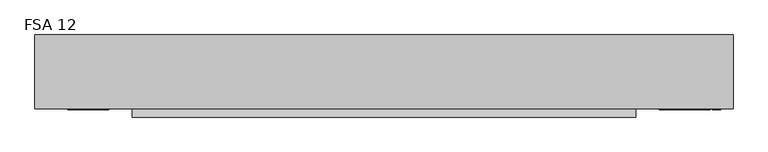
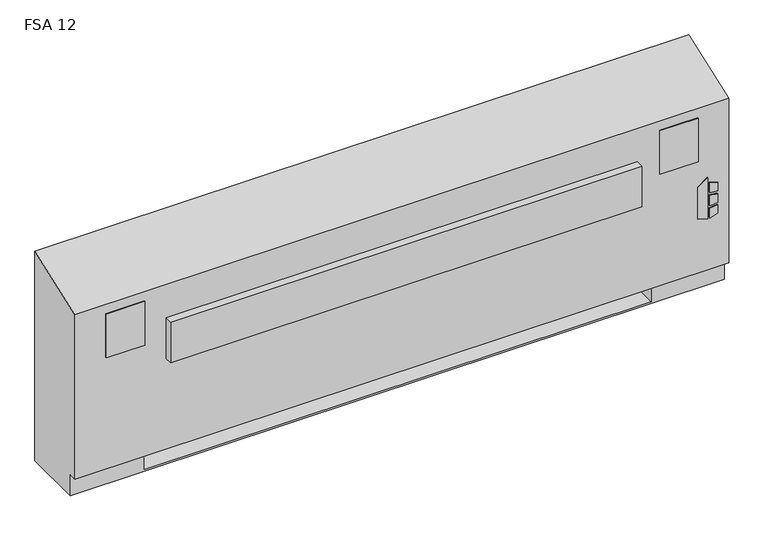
"""IFC4 building model written with IfcOpenShell, lengths in millimetres: proxy geometry, Vertical_Fan_Coil_Unit_-_FSA_-_IEC_-_4-Pipe_FS-FR_LH_2022 : FSA 12."""

from ifc_helpers import new_model, si_unit, point, frame, frame_2d, origin, place, context, project, spatial, polyline, circle_curve, trimmed, segment, composite_curve, outline, extrude, source, transform, mapped, element, save
from ifc_brep_helpers import plane_surface, revolved_surface, advanced_brep


def fsa_12_8d8f7d14(model_context):
    return source(origin(), model_context, "Body", "SolidModel", [
        extrude(outline(polyline([(263.9480703, 1128.7868862), (254.0, 1160.9602728), (396.1709244, 1160.9602728), (373.1489183, 1128.7868862), (263.9480703, 1128.7868862)])), frame((0.0, 12.7, 0.0), z_axis=(0.0, 1.0, 0.0), x_axis=(0.0, 0.0, 1.0)), (0.0, 0.0, 1.0), 3.175),
        extrude(outline(polyline([(342.9473557, 1167.7186058), (339.7449632, 1193.8), (368.9738042, 1193.8), (377.0382193, 1167.7186058), (342.9473557, 1167.7186058)])), frame((0.0, 12.7, 0.0), z_axis=(0.0, 1.0, 0.0), x_axis=(0.0, 0.0, 1.0)), (0.0, 0.0, 1.0), 3.175),
        extrude(outline(polyline([(291.0838288, 1193.8), (287.4183279, 1167.7186058), (254.0, 1167.7186058), (262.6342372, 1193.8), (291.0838288, 1193.8)])), frame((0.0, 12.7, 0.0), z_axis=(0.0, 1.0, 0.0), x_axis=(0.0, 0.0, 1.0)), (0.0, 0.0, 1.0), 3.175),
        extrude(outline(polyline([(330.3989903, 1193.8), (332.6808166, 1167.7186058), (296.7432681, 1167.7186058), (299.4845331, 1193.8), (330.3989903, 1193.8)])), frame((0.0, 12.7, 0.0), z_axis=(0.0, 1.0, 0.0), x_axis=(0.0, 0.0, 1.0)), (0.0, 0.0, 1.0), 3.175),
        extrude(outline(polyline([(1111.25, 223.266), (1111.25, 81.534), (990.6, 81.534), (990.6, 223.266), (1111.25, 223.266)])), frame((0.0, 0.0, 327.025), z_axis=(0.0, 0.0, 1.0), x_axis=(1.0, 0.0, 0.0)), (0.0, 0.0, 1.0), 260.35),
        extrude(outline(polyline([(-698.5, 12.7), (-825.5, 12.7), (-825.5, 15.875), (-698.5, 15.875), (-698.5, 12.7)])), frame((0.0, 0.0, 463.55), z_axis=(0.0, 0.0, 1.0), x_axis=(1.0, 0.0, 0.0)), (0.0, 0.0, 1.0), 152.4),
        extrude(outline(polyline([(1130.3, 12.7), (1003.3, 12.7), (1003.3, 15.875), (1130.3, 15.875), (1130.3, 12.7)])), frame((0.0, 0.0, 463.55), z_axis=(0.0, 0.0, 1.0), x_axis=(1.0, 0.0, 0.0)), (0.0, 0.0, 1.0), 152.4),
        extrude(outline(composite_curve([segment(trimmed(circle_curve(frame_2d((-749.3, 130.175)), 9.525), [point((-758.825, 130.175))], [point((-739.775, 130.175))], False, "CARTESIAN"), True, "CONTINUOUS"), segment(trimmed(circle_curve(frame_2d((-749.3, 130.175)), 9.525), [point((-739.775, 130.175))], [point((-758.825, 130.175))], False, "CARTESIAN"), True, "CONTINUOUS")], self_intersect=False)), frame((0.0, 0.0, 101.6), z_axis=(0.0, 0.0, 1.0), x_axis=(1.0, 0.0, 0.0)), (0.0, 0.0, 1.0), 25.4),
        extrude(outline(polyline([(-850.9, 63.5), (-850.9, 196.85), (-685.8, 196.85), (-685.8, 63.5), (-850.9, 63.5)])), frame((0.0, 0.0, 127.0), z_axis=(0.0, 0.0, 1.0), x_axis=(1.0, 0.0, 0.0)), (0.0, 0.0, 1.0), 50.8),
        extrude(outline(polyline([(930.275, -9.525), (-625.475, -9.525), (-625.475, 15.875), (930.275, 15.875), (930.275, -9.525)])), frame((0.0, 0.0, 389.3009245), z_axis=(0.0, 0.0, 1.0), x_axis=(1.0, 0.0, 0.0)), (0.0, 0.0, 1.0), 142.875),
        extrude(outline(composite_curve([segment(trimmed(circle_curve(frame_2d((109.0168, 457.2)), 7.9375), [point((109.0168, 465.1375))], [point((109.0168, 449.2625))], False, "CARTESIAN"), True, "CONTINUOUS"), segment(trimmed(circle_curve(frame_2d((109.0168, 457.2)), 7.9375), [point((109.0168, 449.2625))], [point((109.0168, 465.1375))], False, "CARTESIAN"), True, "CONTINUOUS")], self_intersect=False)), frame((-736.6, 0.0, 0.0), z_axis=(1.0, 0.0, 0.0), x_axis=(0.0, 1.0, 0.0)), (0.0, 0.0, 1.0), 50.8),
        extrude(outline(composite_curve([segment(trimmed(circle_curve(frame_2d((172.085, 460.0194)), 7.9375), [point((172.085, 467.9569))], [point((172.085, 452.0819))], False, "CARTESIAN"), True, "CONTINUOUS"), segment(trimmed(circle_curve(frame_2d((172.085, 460.0194)), 7.9375), [point((172.085, 452.0819))], [point((172.085, 467.9569))], False, "CARTESIAN"), True, "CONTINUOUS")], self_intersect=False)), frame((-736.6, 0.0, 0.0), z_axis=(1.0, 0.0, 0.0), x_axis=(0.0, 1.0, 0.0)), (0.0, 0.0, 1.0), 50.8),
        extrude(outline(composite_curve([segment(trimmed(circle_curve(frame_2d((53.975, 416.56)), 7.9502), [point((53.975, 424.5102))], [point((53.975, 408.6098))], False, "CARTESIAN"), True, "CONTINUOUS"), segment(trimmed(circle_curve(frame_2d((53.975, 416.56)), 7.9502), [point((53.975, 408.6098))], [point((53.975, 424.5102))], False, "CARTESIAN"), True, "CONTINUOUS")], self_intersect=False)), frame((-736.6, 0.0, 0.0), z_axis=(1.0, 0.0, 0.0), x_axis=(0.0, 1.0, 0.0)), (0.0, 0.0, 1.0), 50.8),
        extrude(outline(composite_curve([segment(trimmed(circle_curve(frame_2d((130.175, 554.99)), 7.9502), [point((130.175, 562.9402))], [point((130.175, 547.0398))], False, "CARTESIAN"), True, "CONTINUOUS"), segment(trimmed(circle_curve(frame_2d((130.175, 554.99)), 7.9502), [point((130.175, 547.0398))], [point((130.175, 562.9402))], False, "CARTESIAN"), True, "CONTINUOUS")], self_intersect=False)), frame((-736.6, 0.0, 0.0), z_axis=(1.0, 0.0, 0.0), x_axis=(0.0, 1.0, 0.0)), (0.0, 0.0, 1.0), 50.8),
        advanced_brep(
        [(-927.1, 244.475, 0.0), (1231.9, 244.475, 0.0), (1231.9, 41.275, 0.0), (-927.1, 41.275, 0.0), (-927.1, 244.475, 730.25), (1231.9, 244.475, 730.25), (990.6, 244.475, 73.025), (1219.2, 244.475, 73.025), (1219.2, 244.475, 654.05), (990.6, 244.475, 654.05), (990.6, 244.475, 414.8650565), (1019.175, 244.475, 414.8650565), (1019.175, 244.475, 385.2349435), (990.6, 244.475, 385.2349435), (990.6, 244.475, 287.3375), (1019.175, 244.475, 287.3375), (1019.175, 244.475, 258.7625), (990.6, 244.475, 258.7625), (990.6, 244.475, 141.2875), (1019.175, 244.475, 141.2875), (1019.175, 244.475, 112.7125), (990.6, 244.475, 112.7125), (-685.8, 244.475, 654.05), (-914.4, 244.475, 654.05), (-914.4, 244.475, 73.025), (-685.8, 244.475, 73.025), (-685.8, 244.475, 112.7125), (-714.375, 244.475, 112.7125), (-714.375, 244.475, 141.2875), (-685.8, 244.475, 141.2875), (-685.8, 244.475, 258.7625), (-714.375, 244.475, 258.7625), (-714.375, 244.475, 287.3375), (-685.8, 244.475, 287.3375), (-685.8, 244.475, 385.2349435), (-714.375, 244.475, 385.2349435), (-714.375, 244.475, 414.8650565), (-685.8, 244.475, 414.8650565), (1008.8626, 244.475, 127.0), (997.7374, 244.475, 127.0), (1008.8626, 244.475, 400.05), (997.7374, 244.475, 400.05), (1008.8626, 244.475, 273.05), (997.7374, 244.475, 273.05), (-692.9374, 244.475, 127.0), (-704.0626, 244.475, 127.0), (-692.9374, 244.475, 273.05), (-704.0626, 244.475, 273.05), (-692.9374, 244.475, 400.05), (-704.0626, 244.475, 400.05), (-927.1, 41.275, 73.025), (-927.1, 15.875, 73.025), (-927.1, 15.875, 647.7), (1231.9, 15.875, 73.025), (1231.9, 15.875, 647.7), (1231.9, 41.275, 73.025), (-685.8, 41.275, 73.025), (-685.8, 225.425, 73.025), (990.6, 225.425, 73.025), (990.6, 41.275, 73.025), (990.6, 41.275, 6.35), (-685.8, 41.275, 6.35), (990.6, 41.275, 654.05), (1219.2, 41.275, 654.05), (1219.2, 41.275, 73.025), (990.6, 41.275, 73.025), (-685.8, 41.275, 654.05), (-685.8, 41.275, 73.025), (-914.4, 41.275, 73.025), (-914.4, 41.275, 654.05), (990.6, 225.425, 73.025), (990.6, 238.125, 112.7125), (990.6, 238.125, 141.2875), (990.6, 238.125, 258.7625), (990.6, 238.125, 287.3375), (990.6, 238.125, 385.2349435), (990.6, 238.125, 414.8650565), (-685.8, 225.425, 73.025), (-685.8, 238.125, 414.8650565), (-685.8, 238.125, 385.2349435), (-685.8, 238.125, 287.3375), (-685.8, 238.125, 258.7625), (-685.8, 238.125, 141.2875), (-685.8, 238.125, 112.7125), (-685.8, 225.425, 6.35), (990.6, 225.425, 6.35), (1019.175, 238.125, 112.7125), (1019.175, 238.125, 141.2875), (997.7374, 238.125, 127.0), (1008.8626, 238.125, 127.0), (1019.175, 238.125, 258.7625), (1019.175, 238.125, 287.3375), (997.7374, 238.125, 273.05), (1008.8626, 238.125, 273.05), (1019.175, 238.125, 385.2349435), (1019.175, 238.125, 414.8650565), (997.7374, 238.125, 400.05), (1008.8626, 238.125, 400.05), (-714.375, 238.125, 141.2875), (-714.375, 238.125, 112.7125), (-704.0626, 238.125, 127.0), (-692.9374, 238.125, 127.0), (-714.375, 238.125, 287.3375), (-714.375, 238.125, 258.7625), (-704.0626, 238.125, 273.05), (-692.9374, 238.125, 273.05), (-714.375, 238.125, 414.8650565), (-714.375, 238.125, 385.2349435), (-704.0626, 238.125, 400.05), (-692.9374, 238.125, 400.05)],
        [
            (0, 1),
            (1, 2),
            (2, 3),
            (3, 0),
            (0, 4),
            (4, 5),
            (5, 1),
            (6, 7),
            (7, 8),
            (8, 9),
            (9, 10),
            (10, 11),
            (11, 12),
            (12, 13),
            (13, 14),
            (14, 15),
            (15, 16),
            (16, 17),
            (17, 18),
            (18, 19),
            (19, 20),
            (20, 21),
            (21, 6),
            (22, 23),
            (23, 24),
            (24, 25),
            (25, 26),
            (26, 27),
            (27, 28),
            (28, 29),
            (29, 30),
            (30, 31),
            (31, 32),
            (32, 33),
            (33, 34),
            (34, 35),
            (35, 36),
            (36, 37),
            (37, 22),
            (38, 39, circle_curve(frame((1003.3, 244.475, 127.0), z_axis=(0.0, -1.0, 0.0), x_axis=(-1.0, 0.0, 0.0)), 5.5626)),
            (39, 38, circle_curve(frame((1003.3, 244.475, 127.0), z_axis=(0.0, -1.0, 0.0), x_axis=(-1.0, 0.0, 0.0)), 5.5626)),
            (40, 41, circle_curve(frame((1003.3, 244.475, 400.05), z_axis=(0.0, -1.0, 0.0), x_axis=(-1.0, 0.0, 0.0)), 5.5626)),
            (41, 40, circle_curve(frame((1003.3, 244.475, 400.05), z_axis=(0.0, -1.0, 0.0), x_axis=(-1.0, 0.0, 0.0)), 5.5626)),
            (42, 43, circle_curve(frame((1003.3, 244.475, 273.05), z_axis=(0.0, -1.0, 0.0), x_axis=(-1.0, 0.0, 0.0)), 5.5626)),
            (43, 42, circle_curve(frame((1003.3, 244.475, 273.05), z_axis=(0.0, -1.0, 0.0), x_axis=(-1.0, 0.0, 0.0)), 5.5626)),
            (44, 45, circle_curve(frame((-698.5, 244.475, 127.0), z_axis=(0.0, -1.0, 0.0), x_axis=(-1.0, 0.0, 0.0)), 5.5626)),
            (45, 44, circle_curve(frame((-698.5, 244.475, 127.0), z_axis=(0.0, -1.0, 0.0), x_axis=(-1.0, 0.0, 0.0)), 5.5626)),
            (46, 47, circle_curve(frame((-698.5, 244.475, 273.05), z_axis=(0.0, -1.0, 0.0), x_axis=(-1.0, 0.0, 0.0)), 5.5626)),
            (47, 46, circle_curve(frame((-698.5, 244.475, 273.05), z_axis=(0.0, -1.0, 0.0), x_axis=(-1.0, 0.0, 0.0)), 5.5626)),
            (48, 49, circle_curve(frame((-698.5, 244.475, 400.05), z_axis=(0.0, -1.0, 0.0), x_axis=(-1.0, 0.0, 0.0)), 5.5626)),
            (49, 48, circle_curve(frame((-698.5, 244.475, 400.05), z_axis=(0.0, -1.0, 0.0), x_axis=(-1.0, 0.0, 0.0)), 5.5626)),
            (3, 50),
            (50, 51),
            (51, 52),
            (52, 4),
            (51, 53),
            (53, 54),
            (54, 52),
            (5, 54),
            (53, 55),
            (55, 2),
            (50, 56),
            (56, 57),
            (57, 58),
            (58, 59),
            (59, 55),
            (59, 60),
            (60, 61),
            (61, 56),
            (62, 63),
            (63, 64),
            (64, 65),
            (65, 62),
            (66, 67),
            (67, 68),
            (68, 69),
            (69, 66),
            (65, 70),
            (70, 6),
            (21, 71),
            (71, 72),
            (72, 18),
            (17, 73),
            (73, 74),
            (74, 14),
            (13, 75),
            (75, 76),
            (76, 10),
            (9, 62),
            (64, 7),
            (63, 8),
            (69, 23),
            (22, 66),
            (68, 24),
            (67, 77),
            (77, 25),
            (37, 78),
            (78, 79),
            (79, 34),
            (33, 80),
            (80, 81),
            (81, 30),
            (29, 82),
            (82, 83),
            (83, 26),
            (57, 84),
            (84, 85),
            (85, 58),
            (85, 60),
            (84, 61),
            (71, 86),
            (86, 87),
            (87, 72),
            (88, 89, circle_curve(frame((1003.3, 238.125, 127.0), z_axis=(0.0, 1.0, 0.0), x_axis=(-1.0, 0.0, 0.0)), 5.5626)),
            (89, 88, circle_curve(frame((1003.3, 238.125, 127.0), z_axis=(0.0, 1.0, 0.0), x_axis=(-1.0, 0.0, 0.0)), 5.5626)),
            (73, 90),
            (90, 91),
            (91, 74),
            (92, 93, circle_curve(frame((1003.3, 238.125, 273.05), z_axis=(0.0, 1.0, 0.0), x_axis=(-1.0, 0.0, 0.0)), 5.5626)),
            (93, 92, circle_curve(frame((1003.3, 238.125, 273.05), z_axis=(0.0, 1.0, 0.0), x_axis=(-1.0, 0.0, 0.0)), 5.5626)),
            (75, 94),
            (94, 95),
            (95, 76),
            (96, 97, circle_curve(frame((1003.3, 238.125, 400.05), z_axis=(0.0, 1.0, 0.0), x_axis=(-1.0, 0.0, 0.0)), 5.5626)),
            (97, 96, circle_curve(frame((1003.3, 238.125, 400.05), z_axis=(0.0, 1.0, 0.0), x_axis=(-1.0, 0.0, 0.0)), 5.5626)),
            (98, 99),
            (99, 83),
            (82, 98),
            (100, 101, circle_curve(frame((-698.5, 238.125, 127.0), z_axis=(0.0, 1.0, 0.0), x_axis=(-1.0, 0.0, 0.0)), 5.5626)),
            (101, 100, circle_curve(frame((-698.5, 238.125, 127.0), z_axis=(0.0, 1.0, 0.0), x_axis=(-1.0, 0.0, 0.0)), 5.5626)),
            (102, 103),
            (103, 81),
            (80, 102),
            (104, 105, circle_curve(frame((-698.5, 238.125, 273.05), z_axis=(0.0, 1.0, 0.0), x_axis=(-1.0, 0.0, 0.0)), 5.5626)),
            (105, 104, circle_curve(frame((-698.5, 238.125, 273.05), z_axis=(0.0, 1.0, 0.0), x_axis=(-1.0, 0.0, 0.0)), 5.5626)),
            (106, 107),
            (107, 79),
            (78, 106),
            (108, 109, circle_curve(frame((-698.5, 238.125, 400.05), z_axis=(0.0, 1.0, 0.0), x_axis=(-1.0, 0.0, 0.0)), 5.5626)),
            (109, 108, circle_curve(frame((-698.5, 238.125, 400.05), z_axis=(0.0, 1.0, 0.0), x_axis=(-1.0, 0.0, 0.0)), 5.5626)),
            (87, 19),
            (86, 20),
            (91, 15),
            (90, 16),
            (95, 11),
            (94, 12),
            (28, 98),
            (99, 27),
            (32, 102),
            (103, 31),
            (36, 106),
            (107, 35),
            (88, 39),
            (38, 89),
            (96, 41),
            (40, 97),
            (92, 43),
            (42, 93),
            (100, 45),
            (44, 101),
            (104, 47),
            (46, 105),
            (108, 49),
            (48, 109),
        ],
        [
            plane_surface(frame((-927.1, 244.475, 0.0), z_axis=(0.0, 0.0, -1.0), x_axis=(1.0, 0.0, 0.0))),
            plane_surface(frame((1231.9, 244.475, 730.25), z_axis=(0.0, 1.0, 0.0), x_axis=(0.0, 0.0, -1.0))),
            plane_surface(frame((-927.1, 244.475, 730.25), z_axis=(-1.0, 0.0, 0.0), x_axis=(0.0, 0.0, -1.0))),
            plane_surface(frame((-927.1, 15.875, 730.25), z_axis=(0.0, -1.0, 0.0), x_axis=(0.0, 0.0, -1.0))),
            plane_surface(frame((1231.9, 15.875, 730.25), z_axis=(1.0, 0.0, 0.0), x_axis=(0.0, 0.0, -1.0))),
            plane_surface(frame((-927.1, 15.875, 73.025), z_axis=(0.0, 0.0, -1.0), x_axis=(1.0, 0.0, 0.0))),
            plane_surface(frame((-927.1, 41.275, 73.025), z_axis=(0.0, -1.0, 0.0), x_axis=(1.0, 0.0, 0.0))),
            plane_surface(frame((990.6, 41.275, 654.05), z_axis=(0.0, 1.0, 0.0), x_axis=(0.0, 0.0, -1.0))),
            plane_surface(frame((990.6, 41.275, 654.05), z_axis=(1.0, 0.0, 0.0), x_axis=(0.0, 1.0, 0.0))),
            plane_surface(frame((990.6, 41.275, 73.025), z_axis=(0.0, 0.0, 1.0), x_axis=(0.0, 1.0, 0.0))),
            plane_surface(frame((1219.2, 41.275, 73.025), z_axis=(-1.0, 0.0, 0.0), x_axis=(0.0, 1.0, 0.0))),
            plane_surface(frame((1219.2, 41.275, 654.05), z_axis=(0.0, 0.0, -1.0), x_axis=(0.0, 1.0, 0.0))),
            plane_surface(frame((-685.8, 41.275, 654.05), z_axis=(0.0, 0.0, -1.0), x_axis=(0.0, 1.0, 0.0))),
            plane_surface(frame((-914.4, 41.275, 654.05), z_axis=(1.0, 0.0, 0.0), x_axis=(0.0, 1.0, 0.0))),
            plane_surface(frame((-914.4, 41.275, 73.025), z_axis=(0.0, 0.0, 1.0), x_axis=(0.0, 1.0, 0.0))),
            plane_surface(frame((-685.8, 41.275, 73.025), z_axis=(-1.0, 0.0, 0.0), x_axis=(0.0, 1.0, 0.0))),
            plane_surface(frame((990.6, 225.425, 73.025), z_axis=(0.0, -1.0, 0.0), x_axis=(0.0, 0.0, -1.0))),
            plane_surface(frame((990.6, 225.425, 73.025), z_axis=(-1.0, 0.0, 0.0), x_axis=(0.0, -1.0, 0.0))),
            plane_surface(frame((990.6, 225.425, 6.35), z_axis=(0.0, 0.0, 1.0), x_axis=(0.0, -1.0, 0.0))),
            plane_surface(frame((-685.8, 225.425, 6.35), z_axis=(1.0, 0.0, 0.0), x_axis=(0.0, -1.0, 0.0))),
            plane_surface(frame((1019.175, 238.125, 141.2875), z_axis=(0.0, -1.0, 0.0), x_axis=(-1.0, 0.0, 0.0))),
            plane_surface(frame((990.6, 244.475, 141.2875), z_axis=(0.0, 0.0, 1.0), x_axis=(0.0, -1.0, 0.0))),
            plane_surface(frame((1019.175, 244.475, 141.2875), z_axis=(1.0, 0.0, 0.0), x_axis=(0.0, -1.0, 0.0))),
            plane_surface(frame((1019.175, 244.475, 112.7125), z_axis=(0.0, 0.0, -1.0), x_axis=(0.0, -1.0, 0.0))),
            plane_surface(frame((990.6, 244.475, 287.3375), z_axis=(0.0, 0.0, 1.0), x_axis=(0.0, -1.0, 0.0))),
            plane_surface(frame((1019.175, 244.475, 287.3375), z_axis=(1.0, 0.0, 0.0), x_axis=(0.0, -1.0, 0.0))),
            plane_surface(frame((1019.175, 244.475, 258.7625), z_axis=(0.0, 0.0, -1.0), x_axis=(0.0, -1.0, 0.0))),
            plane_surface(frame((990.6, 244.475, 414.8650565), z_axis=(0.0, 0.0, 1.0), x_axis=(0.0, -1.0, 0.0))),
            plane_surface(frame((1019.175, 244.475, 414.8650565), z_axis=(1.0, 0.0, 0.0), x_axis=(0.0, -1.0, 0.0))),
            plane_surface(frame((1019.175, 244.475, 385.2349435), z_axis=(0.0, 0.0, -1.0), x_axis=(0.0, -1.0, 0.0))),
            plane_surface(frame((-714.375, 244.475, 141.2875), z_axis=(0.0, 0.0, 1.0), x_axis=(0.0, -1.0, 0.0))),
            plane_surface(frame((-685.8, 244.475, 112.7125), z_axis=(0.0, 0.0, -1.0), x_axis=(0.0, -1.0, 0.0))),
            plane_surface(frame((-714.375, 244.475, 112.7125), z_axis=(-1.0, 0.0, 0.0), x_axis=(0.0, -1.0, 0.0))),
            plane_surface(frame((-714.375, 244.475, 287.3375), z_axis=(0.0, 0.0, 1.0), x_axis=(0.0, -1.0, 0.0))),
            plane_surface(frame((-685.8, 244.475, 258.7625), z_axis=(0.0, 0.0, -1.0), x_axis=(0.0, -1.0, 0.0))),
            plane_surface(frame((-714.375, 244.475, 258.7625), z_axis=(-1.0, 0.0, 0.0), x_axis=(0.0, -1.0, 0.0))),
            plane_surface(frame((-714.375, 244.475, 414.8650565), z_axis=(0.0, 0.0, 1.0), x_axis=(0.0, -1.0, 0.0))),
            plane_surface(frame((-685.8, 244.475, 385.2349435), z_axis=(0.0, 0.0, -1.0), x_axis=(0.0, -1.0, 0.0))),
            plane_surface(frame((-714.375, 244.475, 385.2349435), z_axis=(-1.0, 0.0, 0.0), x_axis=(0.0, -1.0, 0.0))),
            revolved_surface(polyline([(997.7374, 238.125, 127.0), (997.7374, 244.475, 127.0)]), (1003.3, 244.475, 127.0), (0.0, -1.0, 0.0)),
            revolved_surface(polyline([(997.7374, 238.125, 400.05), (997.7374, 244.475, 400.05)]), (1003.3, 244.475, 400.05), (0.0, -1.0, 0.0)),
            revolved_surface(polyline([(997.7374, 238.125, 273.05), (997.7374, 244.475, 273.05)]), (1003.3, 244.475, 273.05), (0.0, -1.0, 0.0)),
            revolved_surface(polyline([(-704.0626, 238.125, 127.0), (-704.0626, 244.475, 127.0)]), (-698.5, 244.475, 127.0), (0.0, -1.0, 0.0)),
            revolved_surface(polyline([(-704.0626, 238.125, 273.05), (-704.0626, 244.475, 273.05)]), (-698.5, 244.475, 273.05), (0.0, -1.0, 0.0)),
            revolved_surface(polyline([(-704.0626, 238.125, 400.05), (-704.0626, 244.475, 400.05)]), (-698.5, 244.475, 400.05), (0.0, -1.0, 0.0)),
            plane_surface(frame((-927.1, 244.475, 730.25), z_axis=(0.0, -0.33964446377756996, 0.9405538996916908), x_axis=(1.0, 0.0, 0.0))),
        ],
        [
            (0, [[1, 2, 3, 4]]),
            (1, [[-1, 5, 6, 7], [8, 9, 10, 11, 12, 13, 14, 15, 16, 17, 18, 19, 20, 21, 22, 23], [24, 25, 26, 27, 28, 29, 30, 31, 32, 33, 34, 35, 36, 37, 38, 39], [40, 41], [42, 43], [44, 45], [46, 47], [48, 49], [50, 51]]),
            (2, [[-5, -4, 52, 53, 54, 55]]),
            (3, [[56, 57, 58, -54]]),
            (4, [[-7, 59, -57, 60, 61, -2]]),
            (5, [[-53, 62, 63, 64, 65, 66, -60, -56]]),
            (6, [[-3, -61, -66, 67, 68, 69, -62, -52]]),
            (7, [[70, 71, 72, 73]]),
            (7, [[74, 75, 76, 77]]),
            (8, [[-73, 78, 79, -23, 80, 81, 82, -19, 83, 84, 85, -15, 86, 87, 88, -11, 89]]),
            (9, [[-72, 90, -8, -79, -78]]),
            (10, [[-71, 91, -9, -90]]),
            (11, [[-70, -89, -10, -91]]),
            (12, [[-77, 92, -24, 93]]),
            (13, [[-76, 94, -25, -92]]),
            (14, [[-75, 95, 96, -26, -94]]),
            (15, [[-74, -93, -39, 97, 98, 99, -35, 100, 101, 102, -31, 103, 104, 105, -27, -96, -95]]),
            (16, [[-64, 106, 107, 108]]),
            (17, [[-108, 109, -67, -65]]),
            (18, [[-107, 110, -68, -109]]),
            (19, [[-106, -63, -69, -110]]),
            (20, [[111, 112, 113, -81], [114, 115]]),
            (20, [[116, 117, 118, -84], [119, 120]]),
            (20, [[121, 122, 123, -87], [124, 125]]),
            (20, [[126, 127, -104, 128], [129, 130]]),
            (20, [[131, 132, -101, 133], [134, 135]]),
            (20, [[136, 137, -98, 138], [139, 140]]),
            (21, [[-113, 141, -20, -82]]),
            (22, [[-112, 142, -21, -141]]),
            (23, [[-111, -80, -22, -142]]),
            (24, [[-118, 143, -16, -85]]),
            (25, [[-117, 144, -17, -143]]),
            (26, [[-116, -83, -18, -144]]),
            (27, [[-123, 145, -12, -88]]),
            (28, [[-122, 146, -13, -145]]),
            (29, [[-121, -86, -14, -146]]),
            (30, [[-128, -103, -30, 147]]),
            (31, [[-127, 148, -28, -105]]),
            (32, [[-126, -147, -29, -148]]),
            (33, [[-133, -100, -34, 149]]),
            (34, [[-132, 150, -32, -102]]),
            (35, [[-131, -149, -33, -150]]),
            (36, [[-138, -97, -38, 151]]),
            (37, [[-137, 152, -36, -99]]),
            (38, [[-136, -151, -37, -152]]),
            (39, [[153, -40, 154, -114]]),
            (39, [[-153, -115, -154, -41]]),
            (40, [[155, -42, 156, -124]]),
            (40, [[-155, -125, -156, -43]]),
            (41, [[157, -44, 158, -119]]),
            (41, [[-157, -120, -158, -45]]),
            (42, [[159, -46, 160, -129]]),
            (42, [[-159, -130, -160, -47]]),
            (43, [[161, -48, 162, -134]]),
            (43, [[-161, -135, -162, -49]]),
            (44, [[163, -50, 164, -139]]),
            (44, [[-163, -140, -164, -51]]),
            (45, [[-6, -55, -58, -59]]),
        ],
    ),
    ])


if __name__ == "__main__":
    model = new_model("IFC4")
    model_context = context("Model", 3, world=origin())
    ifc_project = project(units=[si_unit("LENGTHUNIT", "METRE", prefix="MILLI")], contexts=[model_context])
    site = spatial("IfcSite", under=ifc_project)
    building = spatial("IfcBuilding", under=site)
    placement = place(None, origin())
    fsa_12_shape = fsa_12_8d8f7d14(model_context)
    element("IfcBuildingElementProxy", 1, Name="Vertical_Fan_Coil_Unit_-_FSA_-_IEC_-_4-Pipe_FS-FR_LH_2022 : FSA 12", ObjectType="Vertical_Fan_Coil_Unit_-_FSA_-_IEC_-_4-Pipe_FS-FR_LH_2022 : FSA 12", at=placement, inside=building, context=model_context, shape_type="MappedRepresentation", body=[
        mapped(fsa_12_shape, transform((0.0, 0.0, 0.0), x_axis=(1.0, 0.0, 0.0), y_axis=(0.0, 1.0, 0.0), z_axis=(0.0, 0.0, 1.0))),
    ])
    save(model, "model.ifc")
